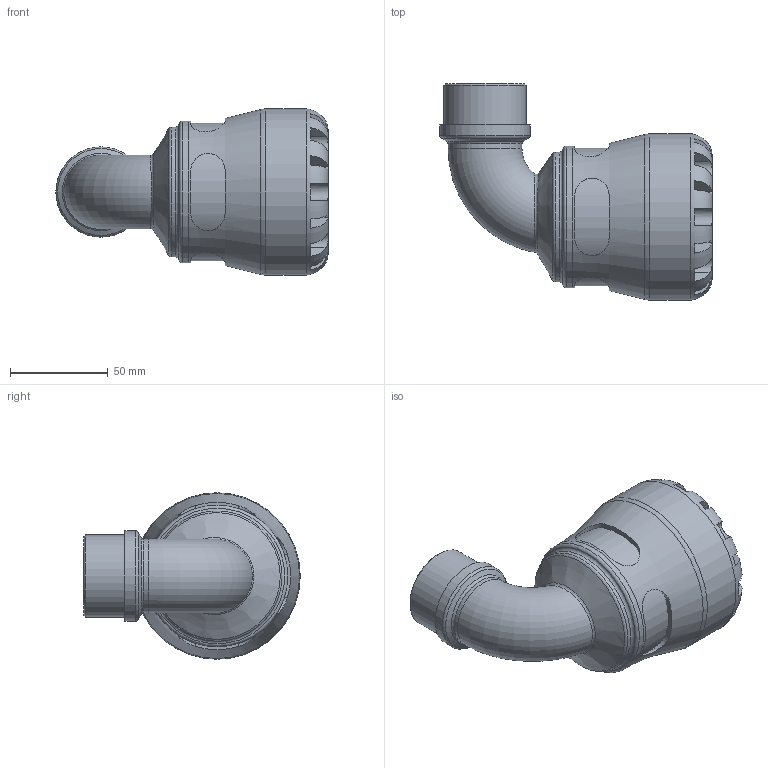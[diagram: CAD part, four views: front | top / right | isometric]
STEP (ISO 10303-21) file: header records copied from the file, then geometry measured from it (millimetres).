
FILE_DESCRIPTION(/* description */ ('PLASSON 90° ELBOW WITH MALE INTEGRAL BRASS 50X1.1/4" SERIES 1'),/* implementation_level */ '2;1');
FILE_NAME(/* name */ 'C:\Dropbox\KIMPROJECTS-Inventor\99-16-3568-Processing\S1\1077\107700050013_197700050013.ipt.stp',/* time_stamp */ '2018-05-13T11:03:41+03:00',/* author */ ('KIM'),/* organization */ (''),/* preprocessor_version */ 'ST-DEVELOPER v15.6',/* originating_system */ 'Autodesk Inventor 2015',/* authorisation */ '');
FILE_SCHEMA (('AUTOMOTIVE_DESIGN { 1 0 10303 214 3 1 1 }'));
Length unit declared in the file: millimetre
Products named in the file (1): 107700050013_197700050013
Bounding box: 139.05 x 110.5 x 85 mm (x, y, z)
Volume: 284155.3 mm3; surface area: 61693.6 mm2
Topology: 1 solids, 1 shells, 112 faces, 275 edges, 170 vertices
Faces by surface type: plane 60, cylinder 37, torus 9, cone 3, bspline 3
Full cylindrical faces by diameter (mm): 29.337 x2, 37.719 x1, 41.91 x1, 46.101 x1, 50 x1, 66.3 x1, 72.25 x1, 85 x1
Entity records: 4378 total; most frequent: CARTESIAN_POINT 1788, DIRECTION 495, ORIENTED_EDGE 492, EDGE_CURVE 246, AXIS2_PLACEMENT_3D 207, VERTEX_POINT 163, EDGE_LOOP 141, STYLED_ITEM 113
